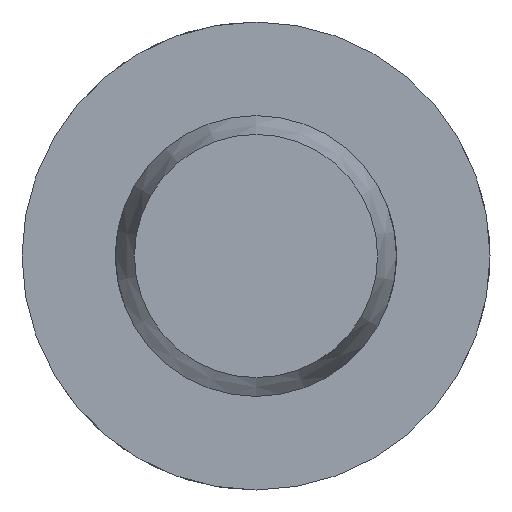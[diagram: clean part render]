
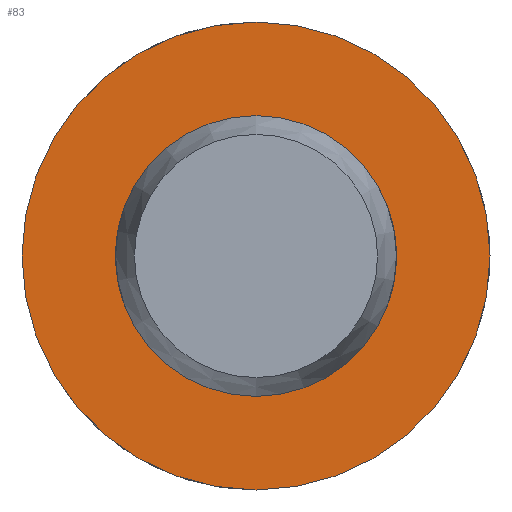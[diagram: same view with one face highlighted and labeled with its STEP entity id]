
A CAD part, left-side view. The second image highlights one B-rep face of the part: STEP entity #83.
In plain terms, the highlighted planar face has unit normal (-1, 0, 0).
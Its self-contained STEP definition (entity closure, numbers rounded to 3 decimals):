
#83 = ADVANCED_FACE( '', ( #128, #129 ), #130, .F. );
#128 = FACE_OUTER_BOUND( '', #205, .T. );
#129 = FACE_BOUND( '', #206, .T. );
#130 = PLANE( '', #207 );
#205 = EDGE_LOOP( '', ( #320 ) );
#206 = EDGE_LOOP( '', ( #321 ) );
#207 = AXIS2_PLACEMENT_3D( '', #322, #323, #324 );
#320 = ORIENTED_EDGE( '', *, *, #484, .F. );
#321 = ORIENTED_EDGE( '', *, *, #474, .T. );
#322 = CARTESIAN_POINT( '', ( 120.6, 6., 0. ) );
#323 = DIRECTION( '', ( 1., 0., 0. ) );
#324 = DIRECTION( '', ( 0., 0., -1. ) );
#474 = EDGE_CURVE( '', #545, #545, #546, .T. );
#484 = EDGE_CURVE( '', #563, #563, #564, .T. );
#545 = VERTEX_POINT( '', #734 );
#546 = CIRCLE( '', #735, 6. );
#563 = VERTEX_POINT( '', #903 );
#564 = CIRCLE( '', #904, 10. );
#734 = CARTESIAN_POINT( '', ( 120.6, 0., -6. ) );
#735 = AXIS2_PLACEMENT_3D( '', #965, #966, #967 );
#903 = CARTESIAN_POINT( '', ( 120.6, 0., -10. ) );
#904 = AXIS2_PLACEMENT_3D( '', #986, #987, #988 );
#965 = CARTESIAN_POINT( '', ( 120.6, 0., 0. ) );
#966 = DIRECTION( '', ( 1., 0., 0. ) );
#967 = DIRECTION( '', ( 0., 0., -1. ) );
#986 = CARTESIAN_POINT( '', ( 120.6, 0., 0. ) );
#987 = DIRECTION( '', ( 1., 0., 0. ) );
#988 = DIRECTION( '', ( 0., 0., -1. ) );
